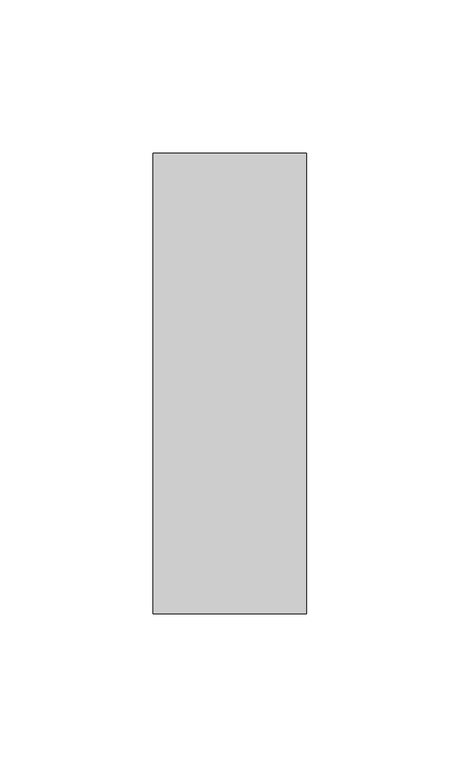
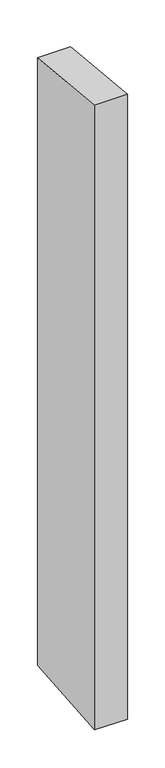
"""IFC4 building model written with IfcOpenShell, lengths in millimetres: member geometry, Прямоугольный импост : 50 x 150 мм."""

import ifcopenshell
import ifcopenshell.guid

model = None  # the IFC model being written
_history = None  # IfcOwnerHistory: only IFC2X3 demands one
_inside = {}  # id of a spatial element -> (the spatial element, [elements in it])
_under = {}  # id of a project, library or spatial element -> (it, [spatial elements below it])
_declared = {}  # id of a project -> (the project, [libraries it declares])
_typed = {}  # id of a type object -> (the type object, [elements of that type])
_made_of = {}  # id of a material, layer set ... -> (it, [elements and type objects made of it])


def new_model(schema):
    """Start an empty IFC model of exactly this schema.

    Asked for "IFC4X3", IfcOpenShell would pick the latest addendum, in which some entities
    have other attributes; the version numbers below select the first issue.
    IFC2X3 requires an IfcOwnerHistory on every rooted entity: one is made here for all.
    """
    global model, _history
    if schema == "IFC4X3":
        model = ifcopenshell.file(schema_version=(4, 3, 0, 0))
    else:
        model = ifcopenshell.file(schema=schema)
    _inside.clear()
    _under.clear()
    _declared.clear()
    _typed.clear()
    _made_of.clear()
    _history = None
    if model.schema == "IFC2X3":
        org = make("IfcOrganization", Name="unknown")
        user = make(
            "IfcPersonAndOrganization",
            ThePerson=make("IfcPerson", FamilyName="unknown"),
            TheOrganization=org,
        )
        app = make(
            "IfcApplication",
            ApplicationDeveloper=org,
            Version="unknown",
            ApplicationFullName="unknown",
            ApplicationIdentifier="unknown",
        )
        _history = make(
            "IfcOwnerHistory",
            OwningUser=user,
            OwningApplication=app,
            ChangeAction="ADDED",
            CreationDate=0,
        )
    return model


def make(cls, **values):
    """One entity of the class cls with the attributes given. An attribute that is None is left unset."""
    return model.create_entity(
        cls, **{name: value for name, value in values.items() if value is not None}
    )


def rooted(cls, **values):
    """An entity with a GlobalId (a new one), such as an element, a storey or a relation."""
    return make(cls, GlobalId=ifcopenshell.guid.new(), OwnerHistory=_history, **values)


def si_unit(unit_type, name, prefix=None):
    """IfcSIUnit, for example si_unit("LENGTHUNIT", "METRE", prefix="MILLI")."""
    return make("IfcSIUnit", UnitType=unit_type, Prefix=prefix, Name=name)


def assignment(units):
    """IfcUnitAssignment: the units of a project."""
    return None if units is None else make("IfcUnitAssignment", Units=units)


def point(xyz):
    """IfcCartesianPoint."""
    return None if xyz is None else make("IfcCartesianPoint", Coordinates=xyz)


def direction(xyz):
    """IfcDirection."""
    return None if xyz is None else make("IfcDirection", DirectionRatios=xyz)


def frame(location, z_axis=None, x_axis=None):
    """IfcAxis2Placement3D, a coordinate frame: its origin and axes. An axis left out is left unset."""
    return make(
        "IfcAxis2Placement3D",
        Location=point(location),
        Axis=direction(z_axis),
        RefDirection=direction(x_axis),
    )


def origin():
    """The frame at (0, 0, 0) with its axes left unset."""
    return frame((0.0, 0.0, 0.0))


def place(relative_to, where):
    """IfcLocalPlacement: puts the frame where relative to a parent placement (None: the world)."""
    return make(
        "IfcLocalPlacement", PlacementRelTo=relative_to, RelativePlacement=where
    )


def context(
    kind, dimensions, precision=None, world=None, true_north=None, identifier=None
):
    """IfcGeometricRepresentationContext, for example the 3D "Model" context."""
    return make(
        "IfcGeometricRepresentationContext",
        ContextIdentifier=identifier,
        ContextType=kind,
        CoordinateSpaceDimension=dimensions,
        Precision=precision,
        WorldCoordinateSystem=world,
        TrueNorth=true_north,
    )


def project(units=None, contexts=None):
    """IfcProject with its units and contexts."""
    return rooted(
        "IfcProject",
        Name="project",
        RepresentationContexts=contexts,
        UnitsInContext=assignment(units),
    )


def spatial(cls, under=None, at=None, **own):
    """A site, building, storey or space (cls), placed at a placement, below another one or the project."""
    s = rooted(cls, ObjectPlacement=at, **own)
    if under is not None:
        _under.setdefault(under.id(), (under, []))[1].append(s)
    return s


def faces_of(points, faces, orient=None, outer=None):
    """IfcFace entities. A face is a list of loops; a loop is a list of indices into points, from 0.

    orient and outer hold one flag for each loop. By default every Orientation is true, the
    first loop of a face is its IfcFaceOuterBound and the others are IfcFaceBound.
    """
    made = []
    for i, loops in enumerate(faces):
        bounds = []
        for j, loop in enumerate(loops):
            is_outer = j == 0 if outer is None else outer[i][j]
            bounds.append(
                make(
                    "IfcFaceOuterBound" if is_outer else "IfcFaceBound",
                    Bound=make("IfcPolyLoop", Polygon=[points[k] for k in loop]),
                    Orientation=True if orient is None else orient[i][j],
                )
            )
        made.append(make("IfcFace", Bounds=bounds))
    return made


def faceted_brep(points, faces, orient=None, outer=None, voids=None):
    """IfcFacetedBrep: a solid bounded by flat faces; with voids (closed shells), ...WithVoids."""
    shared = [point(p) for p in points]
    hull = make("IfcClosedShell", CfsFaces=faces_of(shared, faces, orient, outer))
    if voids is None:
        return make("IfcFacetedBrep", Outer=hull)
    return make(
        "IfcFacetedBrepWithVoids",
        Outer=hull,
        Voids=[
            make(cls, CfsFaces=faces_of(shared, fs, o, b)) for cls, fs, o, b in voids
        ],
    )


def shape(context_of_items, identifier, shape_type, items):
    """IfcShapeRepresentation: the items that make up one representation, for example the "Body"."""
    return make(
        "IfcShapeRepresentation",
        ContextOfItems=context_of_items,
        RepresentationIdentifier=identifier,
        RepresentationType=shape_type,
        Items=items,
    )


def source(mapping_origin, context_of_items, identifier, shape_type, items):
    """IfcRepresentationMap: a shape defined once, which mapped items show again and again."""
    return make(
        "IfcRepresentationMap",
        MappingOrigin=mapping_origin,
        MappedRepresentation=shape(context_of_items, identifier, shape_type, items),
    )


def transform(
    local_origin,
    x_axis=None,
    y_axis=None,
    z_axis=None,
    scale=None,
    scale2=None,
    scale3=None,
    uniform=True,
):
    """IfcCartesianTransformationOperator3D, or its non-uniform kind. x_axis, y_axis, z_axis: its Axis1, 2, 3."""
    if uniform:
        return make(
            "IfcCartesianTransformationOperator3D",
            Axis1=direction(x_axis),
            Axis2=direction(y_axis),
            LocalOrigin=point(local_origin),
            Scale=scale,
            Axis3=direction(z_axis),
        )
    return make(
        "IfcCartesianTransformationOperator3DnonUniform",
        Axis1=direction(x_axis),
        Axis2=direction(y_axis),
        LocalOrigin=point(local_origin),
        Scale=scale,
        Axis3=direction(z_axis),
        Scale2=scale2,
        Scale3=scale3,
    )


def mapped(mapping_source, mapping_target):
    """IfcMappedItem: shows the shape of a source again, moved by a transform."""
    return make(
        "IfcMappedItem", MappingSource=mapping_source, MappingTarget=mapping_target
    )


def made_of(thing, what):
    """Note that an element or type object is made of a material, layer set ...; save() writes the relation."""
    if what is not None:
        _made_of.setdefault(what.id(), (what, []))[1].append(thing)
    return thing


def element(
    cls,
    number,
    at=None,
    inside=None,
    cuts=None,
    type_object=None,
    material=None,
    context=None,
    identifier="Body",
    shape_type=None,
    held_by="IfcProductDefinitionShape",
    body=None,
    shapes=None,
    **own,
):
    """One element of the class cls, such as IfcWall. Its Tag is "e" and its number.

    at: its placement. inside: the storey or other place that contains it. cuts: it is an
    opening in that element (IfcRelVoidsElement). A single representation is given by context,
    identifier, shape_type and body (its items); several are given by shapes. held_by: the class
    of the entity that holds the representations. save() writes the other relations.
    """
    e = rooted(cls, Tag="e%d" % number, ObjectPlacement=at, **own)
    if body is not None:
        shapes = [shape(context, identifier, shape_type, body)]
    if shapes is not None:
        e.Representation = make(held_by, Representations=shapes)
    if inside is not None:
        _inside.setdefault(inside.id(), (inside, []))[1].append(e)
    if cuts is not None:
        rooted(
            "IfcRelVoidsElement", RelatingBuildingElement=cuts, RelatedOpeningElement=e
        )
    if type_object is not None:
        _typed.setdefault(type_object.id(), (type_object, []))[1].append(e)
    return made_of(e, material)


def aggregate(whole, parts):
    """IfcRelAggregates: a whole, such as a stair, and the parts it consists of."""
    return rooted("IfcRelAggregates", RelatingObject=whole, RelatedObjects=parts)


def save(model, path):
    """Write the relations noted so far, then the file.

    IfcRelAggregates (storeys below a building ...), IfcRelContainedInSpatialStructure (elements
    in a storey), IfcRelDefinesByType, IfcRelAssociatesMaterial and IfcRelDeclares: one each for
    every whole, place, type object, material and project.
    """
    for whole, parts in _under.values():
        aggregate(whole, parts)
    for where, things in _inside.values():
        rooted(
            "IfcRelContainedInSpatialStructure",
            RelatedElements=things,
            RelatingStructure=where,
        )
    for kind, things in _typed.values():
        rooted("IfcRelDefinesByType", RelatedObjects=things, RelatingType=kind)
    for what, things in _made_of.values():
        rooted("IfcRelAssociatesMaterial", RelatedObjects=things, RelatingMaterial=what)
    for by, libraries in _declared.values():
        rooted("IfcRelDeclares", RelatingContext=by, RelatedDefinitions=libraries)
    model.write(path)


def member_f1e5f49c(model_context):
    return source(origin(), model_context, "Body", "Brep", [
        faceted_brep([(-25.0, 75.0, -7.2902583), (25.0, 75.0, -7.1341879), (25.0, 75.0, -986.5816299), (-25.0, 75.0, -986.328802), (-25.0, -75.0, 7.1341879), (-25.0, -75.0, -999.2876836), (25.0, -75.0, 7.2902583), (25.0, -75.0, -999.5405114)], [[[0, 1, 2, 3]], [[4, 0, 3, 5]], [[6, 4, 5, 7]], [[1, 6, 7, 2]], [[1, 0, 4, 6]], [[2, 7, 5, 3]]]),
    ])


if __name__ == "__main__":
    model = new_model("IFC4")
    model_context = context("Model", 3, world=origin())
    ifc_project = project(units=[si_unit("LENGTHUNIT", "METRE", prefix="MILLI")], contexts=[model_context])
    site = spatial("IfcSite", under=ifc_project)
    building = spatial("IfcBuilding", under=site)
    placement = place(None, origin())
    member_shape = member_f1e5f49c(model_context)
    element("IfcMember", 1, ObjectType="Прямоугольный импост : 50 x 150 мм", at=placement, inside=building, context=model_context, shape_type="MappedRepresentation", body=[
        mapped(member_shape, transform((0.0, 0.0, 0.0), x_axis=(1.0, 0.0, 0.0), y_axis=(0.0, 1.0, 0.0), z_axis=(0.0, 0.0, 1.0))),
    ])
    save(model, "model.ifc")
